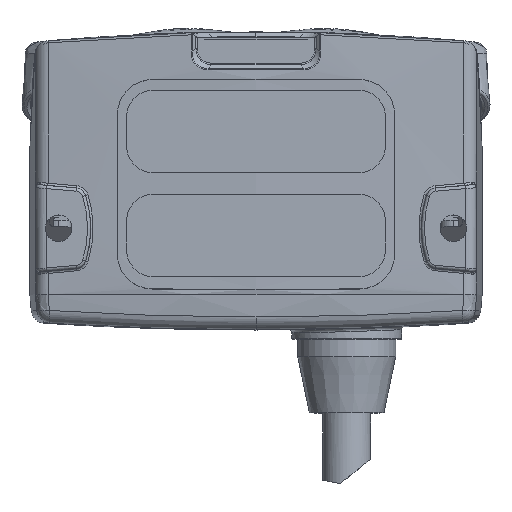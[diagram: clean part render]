
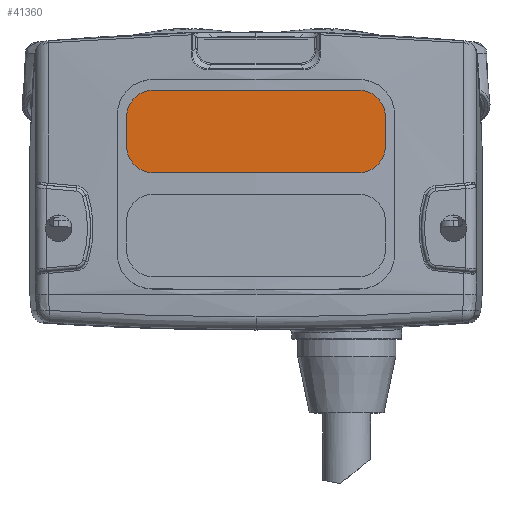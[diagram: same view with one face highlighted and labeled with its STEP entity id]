
A CAD part, top view. The second image highlights one B-rep face of the part: STEP entity #41360.
In plain terms, the highlighted planar face has unit normal (0, 0, 1).
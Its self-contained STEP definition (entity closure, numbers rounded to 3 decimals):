
#718 = CIRCLE ( 'NONE', #47269, 2.5 ) ;
#3091 = EDGE_CURVE ( 'NONE', #37740, #56989, #25017, .T. ) ;
#3281 = ORIENTED_EDGE ( 'NONE', *, *, #3091, .T. ) ;
#4074 = EDGE_CURVE ( 'NONE', #36043, #35105, #718, .T. ) ;
#4367 = CIRCLE ( 'NONE', #44372, 2.5 ) ;
#5023 = EDGE_CURVE ( 'NONE', #51525, #49523, #24914, .T. ) ;
#6139 = DIRECTION ( 'NONE',  ( 0., 0., 1. ) ) ;
#12436 = LINE ( 'NONE', #37125, #23220 ) ;
#12820 = VECTOR ( 'NONE', #20348, 1000. ) ;
#13241 = CARTESIAN_POINT ( 'NONE',  ( 0., 1.668, 35.987 ) ) ;
#13854 = ORIENTED_EDGE ( 'NONE', *, *, #18282, .T. ) ;
#17853 = DIRECTION ( 'NONE',  ( 0., 0., 1. ) ) ;
#18042 = CARTESIAN_POINT ( 'NONE',  ( 12.125, 3.043, 35.987 ) ) ;
#18282 = EDGE_CURVE ( 'NONE', #22235, #36043, #12436, .T. ) ;
#18947 = CARTESIAN_POINT ( 'NONE',  ( 9.625, 3.043, 35.987 ) ) ;
#19236 = EDGE_LOOP ( 'NONE', ( #24084, #26244, #3281, #26105, #13854, #36621, #29945, #54049 ) ) ;
#20038 = CARTESIAN_POINT ( 'NONE',  ( -9.625, 5.543, 35.987 ) ) ;
#20127 = VECTOR ( 'NONE', #40050, 1000. ) ;
#20348 = DIRECTION ( 'NONE',  ( 0., -1., 0. ) ) ;
#21077 = AXIS2_PLACEMENT_3D ( 'NONE', #13241, #17853, #49803 ) ;
#21803 = DIRECTION ( 'NONE',  ( 0., 0., 1. ) ) ;
#21988 = LINE ( 'NONE', #25596, #55545 ) ;
#22235 = VERTEX_POINT ( 'NONE', #40283 ) ;
#22662 = CIRCLE ( 'NONE', #49095, 2.5 ) ;
#22878 = VERTEX_POINT ( 'NONE', #20038 ) ;
#23220 = VECTOR ( 'NONE', #41723, 1000. ) ;
#23561 = DIRECTION ( 'NONE',  ( 1., 0., 0. ) ) ;
#24084 = ORIENTED_EDGE ( 'NONE', *, *, #32409, .T. ) ;
#24914 = CIRCLE ( 'NONE', #56098, 2.5 ) ;
#25017 = LINE ( 'NONE', #36514, #12820 ) ;
#25596 = CARTESIAN_POINT ( 'NONE',  ( -12.125, 5.543, 35.987 ) ) ;
#25626 = CARTESIAN_POINT ( 'NONE',  ( 9.625, 5.543, 35.987 ) ) ;
#26105 = ORIENTED_EDGE ( 'NONE', *, *, #54259, .T. ) ;
#26244 = ORIENTED_EDGE ( 'NONE', *, *, #50645, .T. ) ;
#29945 = ORIENTED_EDGE ( 'NONE', *, *, #49277, .T. ) ;
#32409 = EDGE_CURVE ( 'NONE', #49523, #22878, #21988, .T. ) ;
#33434 = CARTESIAN_POINT ( 'NONE',  ( -9.625, 0.293, 35.987 ) ) ;
#35105 = VERTEX_POINT ( 'NONE', #42901 ) ;
#36043 = VERTEX_POINT ( 'NONE', #46196 ) ;
#36514 = CARTESIAN_POINT ( 'NONE',  ( -12.125, 5.543, 35.987 ) ) ;
#36621 = ORIENTED_EDGE ( 'NONE', *, *, #4074, .T. ) ;
#37125 = CARTESIAN_POINT ( 'NONE',  ( -12.125, -2.207, 35.987 ) ) ;
#37740 = VERTEX_POINT ( 'NONE', #40546 ) ;
#38023 = DIRECTION ( 'NONE',  ( 1., 0., 0. ) ) ;
#38753 = DIRECTION ( 'NONE',  ( 1., 0., 0. ) ) ;
#38877 = DIRECTION ( 'NONE',  ( 0., 0., 1. ) ) ;
#40050 = DIRECTION ( 'NONE',  ( 0., 1., 0. ) ) ;
#40283 = CARTESIAN_POINT ( 'NONE',  ( -9.625, -2.207, 35.987 ) ) ;
#40546 = CARTESIAN_POINT ( 'NONE',  ( -12.125, 3.043, 35.987 ) ) ;
#40547 = CARTESIAN_POINT ( 'NONE',  ( 9.625, 0.293, 35.987 ) ) ;
#41360 = ADVANCED_FACE ( 'NONE', ( #55557 ), #58604, .T. ) ;
#41723 = DIRECTION ( 'NONE',  ( 1., 0., 0. ) ) ;
#42901 = CARTESIAN_POINT ( 'NONE',  ( 12.125, 0.293, 35.987 ) ) ;
#44372 = AXIS2_PLACEMENT_3D ( 'NONE', #49144, #21803, #53716 ) ;
#46196 = CARTESIAN_POINT ( 'NONE',  ( 9.625, -2.207, 35.987 ) ) ;
#47269 = AXIS2_PLACEMENT_3D ( 'NONE', #40547, #38877, #38753 ) ;
#49095 = AXIS2_PLACEMENT_3D ( 'NONE', #33434, #6139, #38023 ) ;
#49144 = CARTESIAN_POINT ( 'NONE',  ( -9.625, 3.043, 35.987 ) ) ;
#49277 = EDGE_CURVE ( 'NONE', #35105, #51525, #56543, .T. ) ;
#49523 = VERTEX_POINT ( 'NONE', #25626 ) ;
#49803 = DIRECTION ( 'NONE',  ( 1., 0., 0. ) ) ;
#50645 = EDGE_CURVE ( 'NONE', #22878, #37740, #4367, .T. ) ;
#50876 = DIRECTION ( 'NONE',  ( 0., 0., 1. ) ) ;
#51525 = VERTEX_POINT ( 'NONE', #18042 ) ;
#53627 = CARTESIAN_POINT ( 'NONE',  ( 12.125, 5.543, 35.987 ) ) ;
#53716 = DIRECTION ( 'NONE',  ( 1., 0., 0. ) ) ;
#54049 = ORIENTED_EDGE ( 'NONE', *, *, #5023, .T. ) ;
#54259 = EDGE_CURVE ( 'NONE', #56989, #22235, #22662, .T. ) ;
#55545 = VECTOR ( 'NONE', #57541, 1000. ) ;
#55557 = FACE_OUTER_BOUND ( 'NONE', #19236, .T. ) ;
#55986 = CARTESIAN_POINT ( 'NONE',  ( -12.125, 0.293, 35.987 ) ) ;
#56098 = AXIS2_PLACEMENT_3D ( 'NONE', #18947, #50876, #23561 ) ;
#56543 = LINE ( 'NONE', #53627, #20127 ) ;
#56989 = VERTEX_POINT ( 'NONE', #55986 ) ;
#57541 = DIRECTION ( 'NONE',  ( -1., 0., 0. ) ) ;
#58604 = PLANE ( 'NONE',  #21077 ) ;
